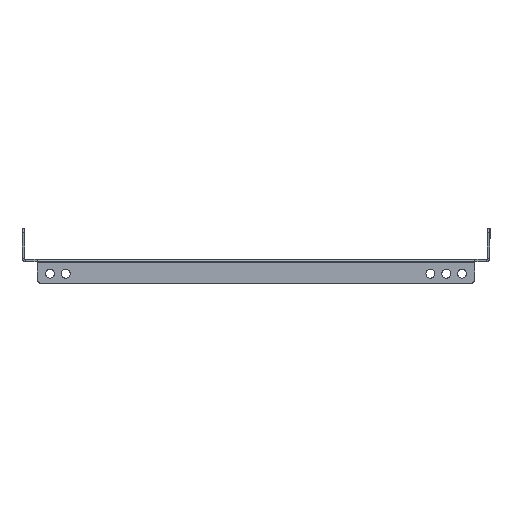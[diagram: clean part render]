
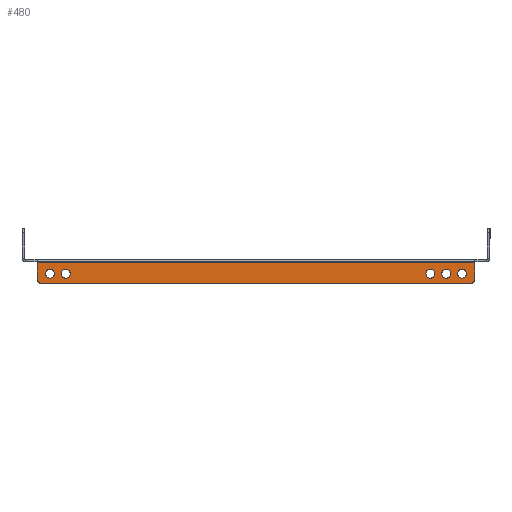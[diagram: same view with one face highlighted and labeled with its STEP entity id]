
A CAD part, left-side view. The second image highlights one B-rep face of the part: STEP entity #480.
In plain terms, the highlighted planar face has unit normal (-1, 0, 0).
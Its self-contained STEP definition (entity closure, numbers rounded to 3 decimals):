
#51 = ORIENTED_EDGE ( 'NONE', *, *, #3755, .T. ) ;
#99 = CARTESIAN_POINT ( 'NONE',  ( -350., 172.5, -0.6 ) ) ;
#118 = ORIENTED_EDGE ( 'NONE', *, *, #1286, .T. ) ;
#286 = EDGE_LOOP ( 'NONE', ( #118, #3930 ) ) ;
#299 = CIRCLE ( 'NONE', #3404, 3.5 ) ;
#302 = EDGE_CURVE ( 'NONE', #2771, #2163, #1909, .T. ) ;
#303 = DIRECTION ( 'NONE',  ( 0., 0., 1. ) ) ;
#387 = VECTOR ( 'NONE', #3136, 1000. ) ;
#413 = DIRECTION ( 'NONE',  ( -1., 0., 0. ) ) ;
#422 = CARTESIAN_POINT ( 'NONE',  ( -350., 172.5, -17. ) ) ;
#478 = EDGE_CURVE ( 'NONE', #1138, #2685, #2829, .T. ) ;
#480 = ADVANCED_FACE ( 'NONE', ( #2336, #3705, #623, #2026, #2697, #2317 ), #602, .T. ) ;
#528 = AXIS2_PLACEMENT_3D ( 'NONE', #3682, #1002, #3067 ) ;
#600 = EDGE_CURVE ( 'NONE', #2685, #1138, #3700, .T. ) ;
#602 = PLANE ( 'NONE',  #528 ) ;
#623 = FACE_BOUND ( 'NONE', #1376, .T. ) ;
#692 = VECTOR ( 'NONE', #3876, 1000. ) ;
#732 = EDGE_CURVE ( 'NONE', #2163, #2771, #4429, .T. ) ;
#736 = VECTOR ( 'NONE', #3212, 1000. ) ;
#745 = CARTESIAN_POINT ( 'NONE',  ( -350., -162.5, -13. ) ) ;
#774 = ORIENTED_EDGE ( 'NONE', *, *, #2223, .F. ) ;
#791 = LINE ( 'NONE', #422, #736 ) ;
#830 = AXIS2_PLACEMENT_3D ( 'NONE', #1460, #4203, #3415 ) ;
#840 = VERTEX_POINT ( 'NONE', #2076 ) ;
#850 = DIRECTION ( 'NONE',  ( 0., 0., -1. ) ) ;
#852 = VERTEX_POINT ( 'NONE', #4131 ) ;
#879 = ORIENTED_EDGE ( 'NONE', *, *, #600, .F. ) ;
#881 = CARTESIAN_POINT ( 'NONE',  ( -350., 162.5, -9.5 ) ) ;
#990 = VERTEX_POINT ( 'NONE', #3221 ) ;
#992 = CARTESIAN_POINT ( 'NONE',  ( -350., 162.5, -9.5 ) ) ;
#1002 = DIRECTION ( 'NONE',  ( -1., 0., 0. ) ) ;
#1018 = CARTESIAN_POINT ( 'NONE',  ( -350., 172.5, 0. ) ) ;
#1023 = AXIS2_PLACEMENT_3D ( 'NONE', #3483, #413, #1030 ) ;
#1030 = DIRECTION ( 'NONE',  ( 0., 0., -1. ) ) ;
#1073 = DIRECTION ( 'NONE',  ( -1., 0., 0. ) ) ;
#1077 = EDGE_LOOP ( 'NONE', ( #1220, #1512 ) ) ;
#1117 = CIRCLE ( 'NONE', #4286, 3.5 ) ;
#1138 = VERTEX_POINT ( 'NONE', #1346 ) ;
#1154 = VERTEX_POINT ( 'NONE', #2851 ) ;
#1157 = AXIS2_PLACEMENT_3D ( 'NONE', #3565, #3282, #3997 ) ;
#1203 = VERTEX_POINT ( 'NONE', #2782 ) ;
#1220 = ORIENTED_EDGE ( 'NONE', *, *, #732, .F. ) ;
#1286 = EDGE_CURVE ( 'NONE', #1895, #990, #2310, .T. ) ;
#1302 = CARTESIAN_POINT ( 'NONE',  ( -350., -162.5, -6. ) ) ;
#1346 = CARTESIAN_POINT ( 'NONE',  ( -350., 150., -13. ) ) ;
#1376 = EDGE_LOOP ( 'NONE', ( #3920, #2823 ) ) ;
#1407 = AXIS2_PLACEMENT_3D ( 'NONE', #3824, #1073, #1465 ) ;
#1427 = DIRECTION ( 'NONE',  ( -1., 0., 0. ) ) ;
#1460 = CARTESIAN_POINT ( 'NONE',  ( -350., 150., -9.5 ) ) ;
#1465 = DIRECTION ( 'NONE',  ( 0., 0., 1. ) ) ;
#1478 = AXIS2_PLACEMENT_3D ( 'NONE', #4125, #2368, #2040 ) ;
#1489 = CARTESIAN_POINT ( 'NONE',  ( -350., -162.5, -9.5 ) ) ;
#1512 = ORIENTED_EDGE ( 'NONE', *, *, #302, .F. ) ;
#1546 = ORIENTED_EDGE ( 'NONE', *, *, #1897, .F. ) ;
#1656 = ORIENTED_EDGE ( 'NONE', *, *, #3562, .F. ) ;
#1670 = CARTESIAN_POINT ( 'NONE',  ( -350., 169.5, -14. ) ) ;
#1674 = EDGE_LOOP ( 'NONE', ( #879, #3533 ) ) ;
#1715 = VERTEX_POINT ( 'NONE', #4401 ) ;
#1716 = ORIENTED_EDGE ( 'NONE', *, *, #4229, .T. ) ;
#1749 = CARTESIAN_POINT ( 'NONE',  ( -350., 172.5, -0.6 ) ) ;
#1769 = AXIS2_PLACEMENT_3D ( 'NONE', #1489, #4274, #850 ) ;
#1838 = EDGE_CURVE ( 'NONE', #990, #1895, #3964, .T. ) ;
#1895 = VERTEX_POINT ( 'NONE', #2152 ) ;
#1897 = EDGE_CURVE ( 'NONE', #1154, #1203, #791, .T. ) ;
#1909 = CIRCLE ( 'NONE', #1023, 3.5 ) ;
#1933 = DIRECTION ( 'NONE',  ( -1., 0., 0. ) ) ;
#1945 = CARTESIAN_POINT ( 'NONE',  ( -350., 150., -9.5 ) ) ;
#2026 = FACE_BOUND ( 'NONE', #1674, .T. ) ;
#2039 = DIRECTION ( 'NONE',  ( 0., 0., 1. ) ) ;
#2040 = DIRECTION ( 'NONE',  ( 0., 0., -1. ) ) ;
#2062 = EDGE_LOOP ( 'NONE', ( #2707, #1656 ) ) ;
#2068 = DIRECTION ( 'NONE',  ( -1., 0., 0. ) ) ;
#2076 = CARTESIAN_POINT ( 'NONE',  ( -350., -150., -13. ) ) ;
#2152 = CARTESIAN_POINT ( 'NONE',  ( -350., -137.5, -13. ) ) ;
#2163 = VERTEX_POINT ( 'NONE', #1302 ) ;
#2168 = CARTESIAN_POINT ( 'NONE',  ( -350., -172.5, -17. ) ) ;
#2173 = AXIS2_PLACEMENT_3D ( 'NONE', #2867, #3161, #2776 ) ;
#2210 = VERTEX_POINT ( 'NONE', #1749 ) ;
#2223 = EDGE_CURVE ( 'NONE', #2821, #2210, #4067, .T. ) ;
#2275 = AXIS2_PLACEMENT_3D ( 'NONE', #1670, #3047, #303 ) ;
#2310 = CIRCLE ( 'NONE', #1157, 3.5 ) ;
#2317 = FACE_OUTER_BOUND ( 'NONE', #4222, .T. ) ;
#2336 = FACE_BOUND ( 'NONE', #286, .T. ) ;
#2368 = DIRECTION ( 'NONE',  ( -1., 0., 0. ) ) ;
#2595 = DIRECTION ( 'NONE',  ( 0., 0., 1. ) ) ;
#2685 = VERTEX_POINT ( 'NONE', #3099 ) ;
#2697 = FACE_BOUND ( 'NONE', #2062, .T. ) ;
#2707 = ORIENTED_EDGE ( 'NONE', *, *, #2713, .F. ) ;
#2713 = EDGE_CURVE ( 'NONE', #2736, #852, #3203, .T. ) ;
#2736 = VERTEX_POINT ( 'NONE', #4450 ) ;
#2762 = VECTOR ( 'NONE', #3449, 1000. ) ;
#2770 = EDGE_CURVE ( 'NONE', #1715, #840, #299, .T. ) ;
#2771 = VERTEX_POINT ( 'NONE', #745 ) ;
#2776 = DIRECTION ( 'NONE',  ( 0., 0., -1. ) ) ;
#2782 = CARTESIAN_POINT ( 'NONE',  ( -350., 169.5, -17. ) ) ;
#2817 = CARTESIAN_POINT ( 'NONE',  ( -350., 172.5, -14. ) ) ;
#2821 = VERTEX_POINT ( 'NONE', #2817 ) ;
#2823 = ORIENTED_EDGE ( 'NONE', *, *, #3406, .F. ) ;
#2829 = CIRCLE ( 'NONE', #4425, 3.5 ) ;
#2851 = CARTESIAN_POINT ( 'NONE',  ( -350., -169.5, -17. ) ) ;
#2867 = CARTESIAN_POINT ( 'NONE',  ( -350., -137.5, -9.5 ) ) ;
#3047 = DIRECTION ( 'NONE',  ( -1., 0., 0. ) ) ;
#3067 = DIRECTION ( 'NONE',  ( 0., 0., 1. ) ) ;
#3099 = CARTESIAN_POINT ( 'NONE',  ( -350., 150., -6. ) ) ;
#3136 = DIRECTION ( 'NONE',  ( 0., 1., 0. ) ) ;
#3161 = DIRECTION ( 'NONE',  ( 1., 0., 0. ) ) ;
#3187 = DIRECTION ( 'NONE',  ( 0., 0., -1. ) ) ;
#3203 = CIRCLE ( 'NONE', #4276, 3.5 ) ;
#3212 = DIRECTION ( 'NONE',  ( 0., 1., 0. ) ) ;
#3221 = CARTESIAN_POINT ( 'NONE',  ( -350., -137.5, -6. ) ) ;
#3282 = DIRECTION ( 'NONE',  ( 1., 0., 0. ) ) ;
#3348 = CIRCLE ( 'NONE', #1478, 3.5 ) ;
#3356 = DIRECTION ( 'NONE',  ( 0., 0., 1. ) ) ;
#3404 = AXIS2_PLACEMENT_3D ( 'NONE', #3829, #1427, #3187 ) ;
#3406 = EDGE_CURVE ( 'NONE', #840, #1715, #3348, .T. ) ;
#3415 = DIRECTION ( 'NONE',  ( 0., 0., 1. ) ) ;
#3449 = DIRECTION ( 'NONE',  ( 0., 0., 1. ) ) ;
#3467 = VERTEX_POINT ( 'NONE', #4189 ) ;
#3483 = CARTESIAN_POINT ( 'NONE',  ( -350., -162.5, -9.5 ) ) ;
#3484 = CIRCLE ( 'NONE', #1407, 3. ) ;
#3533 = ORIENTED_EDGE ( 'NONE', *, *, #478, .F. ) ;
#3562 = EDGE_CURVE ( 'NONE', #852, #2736, #1117, .T. ) ;
#3565 = CARTESIAN_POINT ( 'NONE',  ( -350., -137.5, -9.5 ) ) ;
#3606 = ORIENTED_EDGE ( 'NONE', *, *, #4313, .F. ) ;
#3682 = CARTESIAN_POINT ( 'NONE',  ( -350., 172.5, 0. ) ) ;
#3700 = CIRCLE ( 'NONE', #830, 3.5 ) ;
#3705 = FACE_BOUND ( 'NONE', #1077, .T. ) ;
#3732 = LINE ( 'NONE', #99, #387 ) ;
#3755 = EDGE_CURVE ( 'NONE', #2821, #1203, #4207, .T. ) ;
#3794 = EDGE_CURVE ( 'NONE', #1154, #3467, #3484, .T. ) ;
#3824 = CARTESIAN_POINT ( 'NONE',  ( -350., -169.5, -14. ) ) ;
#3829 = CARTESIAN_POINT ( 'NONE',  ( -350., -150., -9.5 ) ) ;
#3876 = DIRECTION ( 'NONE',  ( 0., 0., -1. ) ) ;
#3920 = ORIENTED_EDGE ( 'NONE', *, *, #2770, .F. ) ;
#3930 = ORIENTED_EDGE ( 'NONE', *, *, #1838, .T. ) ;
#3964 = CIRCLE ( 'NONE', #2173, 3.5 ) ;
#3997 = DIRECTION ( 'NONE',  ( 0., 0., -1. ) ) ;
#4067 = LINE ( 'NONE', #1018, #2762 ) ;
#4093 = DIRECTION ( 'NONE',  ( -1., 0., 0. ) ) ;
#4125 = CARTESIAN_POINT ( 'NONE',  ( -350., -150., -9.5 ) ) ;
#4131 = CARTESIAN_POINT ( 'NONE',  ( -350., 162.5, -13. ) ) ;
#4189 = CARTESIAN_POINT ( 'NONE',  ( -350., -172.5, -14. ) ) ;
#4203 = DIRECTION ( 'NONE',  ( -1., 0., 0. ) ) ;
#4207 = CIRCLE ( 'NONE', #2275, 3. ) ;
#4221 = ORIENTED_EDGE ( 'NONE', *, *, #3794, .T. ) ;
#4222 = EDGE_LOOP ( 'NONE', ( #1546, #4221, #3606, #1716, #774, #51 ) ) ;
#4229 = EDGE_CURVE ( 'NONE', #4417, #2210, #3732, .T. ) ;
#4234 = LINE ( 'NONE', #2168, #692 ) ;
#4274 = DIRECTION ( 'NONE',  ( -1., 0., 0. ) ) ;
#4276 = AXIS2_PLACEMENT_3D ( 'NONE', #992, #2068, #2039 ) ;
#4281 = CARTESIAN_POINT ( 'NONE',  ( -350., -172.5, -0.6 ) ) ;
#4286 = AXIS2_PLACEMENT_3D ( 'NONE', #881, #1933, #2595 ) ;
#4313 = EDGE_CURVE ( 'NONE', #4417, #3467, #4234, .T. ) ;
#4401 = CARTESIAN_POINT ( 'NONE',  ( -350., -150., -6. ) ) ;
#4417 = VERTEX_POINT ( 'NONE', #4281 ) ;
#4425 = AXIS2_PLACEMENT_3D ( 'NONE', #1945, #4093, #3356 ) ;
#4429 = CIRCLE ( 'NONE', #1769, 3.5 ) ;
#4450 = CARTESIAN_POINT ( 'NONE',  ( -350., 162.5, -6. ) ) ;
